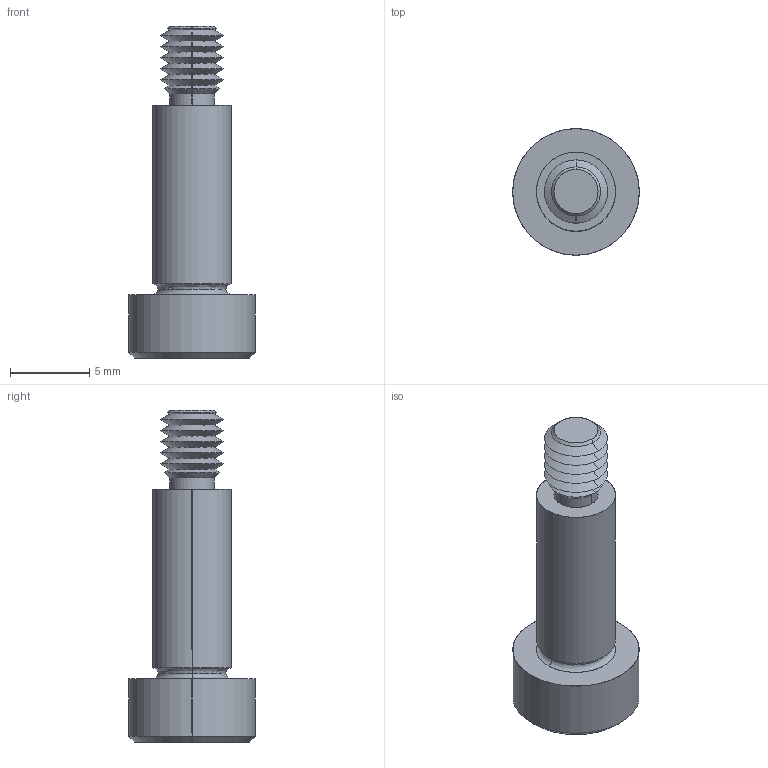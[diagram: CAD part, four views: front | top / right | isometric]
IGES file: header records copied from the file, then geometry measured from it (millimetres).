
Start section: SolidWorks IGES file using analytic representation for surfaces
Global section: file name: C:\Users\IanO\Documents\Temp Folder\GENERAL\SCREW REVISION\P0130_v2\P0130.T5_v2_20220106_IGES\P0130.050-012-T5.igs; native system: SolidWorks 2019; preprocessor: SolidWorks 2019; author: IanO; date: 220106.221506; units: millimetre
Bounding box: 8 x 8 x 21 mm (x, y, z)
Surface area: 504.5 mm2 (no closed solid volume)
Topology: 0 solids, 0 shells, 64 faces, 504 edges, 502 vertices
Faces by surface type: revolution 44, bspline 20
